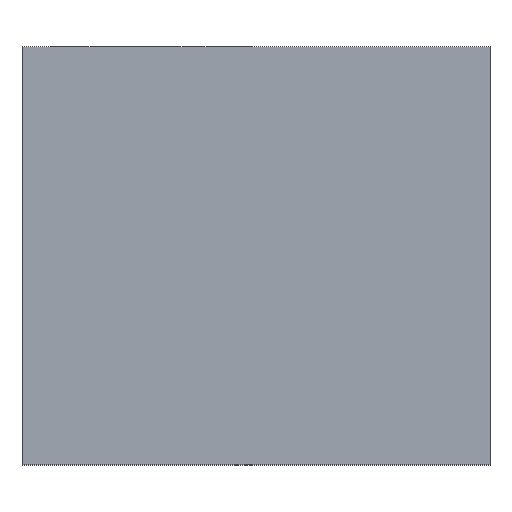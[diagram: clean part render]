
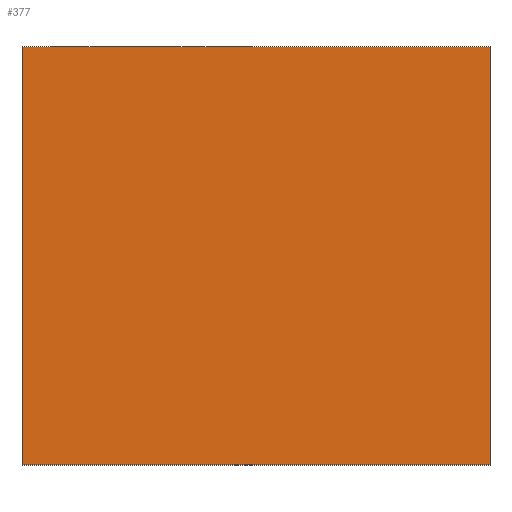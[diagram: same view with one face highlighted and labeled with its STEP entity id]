
A CAD part, top view. The second image highlights one B-rep face of the part: STEP entity #377.
In plain terms, the highlighted planar face has unit normal (0, 0, 1).
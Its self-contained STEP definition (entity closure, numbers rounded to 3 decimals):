
#69 = PLANE ( 'NONE',  #112 ) ;
#108 = EDGE_LOOP ( 'NONE', ( #427, #150, #846, #984 ) ) ;
#112 = AXIS2_PLACEMENT_3D ( 'NONE', #175, #474, #410 ) ;
#116 = VERTEX_POINT ( 'NONE', #218 ) ;
#150 = ORIENTED_EDGE ( 'NONE', *, *, #498, .T. ) ;
#175 = CARTESIAN_POINT ( 'NONE',  ( 0., 0., 19. ) ) ;
#210 = DIRECTION ( 'NONE',  ( -1., 0., 0. ) ) ;
#218 = CARTESIAN_POINT ( 'NONE',  ( 66., 0., 19. ) ) ;
#254 = CARTESIAN_POINT ( 'NONE',  ( 0., 0., 19. ) ) ;
#257 = VERTEX_POINT ( 'NONE', #688 ) ;
#288 = VERTEX_POINT ( 'NONE', #601 ) ;
#377 = ADVANCED_FACE ( 'NONE', ( #760 ), #69, .F. ) ;
#382 = VECTOR ( 'NONE', #441, 1000. ) ;
#410 = DIRECTION ( 'NONE',  ( -1., 0., 0. ) ) ;
#427 = ORIENTED_EDGE ( 'NONE', *, *, #588, .T. ) ;
#441 = DIRECTION ( 'NONE',  ( 0., 1., 0. ) ) ;
#474 = DIRECTION ( 'NONE',  ( 0., 0., -1. ) ) ;
#498 = EDGE_CURVE ( 'NONE', #919, #116, #940, .T. ) ;
#506 = CARTESIAN_POINT ( 'NONE',  ( 0., 59., 19. ) ) ;
#513 = CARTESIAN_POINT ( 'NONE',  ( 0., 0., 19. ) ) ;
#531 = EDGE_CURVE ( 'NONE', #288, #257, #977, .T. ) ;
#551 = DIRECTION ( 'NONE',  ( 1., 0., 0. ) ) ;
#579 = LINE ( 'NONE', #980, #382 ) ;
#588 = EDGE_CURVE ( 'NONE', #257, #919, #902, .T. ) ;
#596 = VECTOR ( 'NONE', #210, 1000. ) ;
#601 = CARTESIAN_POINT ( 'NONE',  ( 66., 59., 19. ) ) ;
#650 = VECTOR ( 'NONE', #736, 1000. ) ;
#688 = CARTESIAN_POINT ( 'NONE',  ( 0., 59., 19. ) ) ;
#700 = VECTOR ( 'NONE', #551, 1000. ) ;
#736 = DIRECTION ( 'NONE',  ( 0., -1., 0. ) ) ;
#760 = FACE_OUTER_BOUND ( 'NONE', #108, .T. ) ;
#778 = CARTESIAN_POINT ( 'NONE',  ( 0., 0., 19. ) ) ;
#794 = EDGE_CURVE ( 'NONE', #116, #288, #579, .T. ) ;
#846 = ORIENTED_EDGE ( 'NONE', *, *, #794, .T. ) ;
#902 = LINE ( 'NONE', #513, #650 ) ;
#919 = VERTEX_POINT ( 'NONE', #778 ) ;
#940 = LINE ( 'NONE', #254, #700 ) ;
#977 = LINE ( 'NONE', #506, #596 ) ;
#980 = CARTESIAN_POINT ( 'NONE',  ( 66., 0., 19. ) ) ;
#984 = ORIENTED_EDGE ( 'NONE', *, *, #531, .T. ) ;
